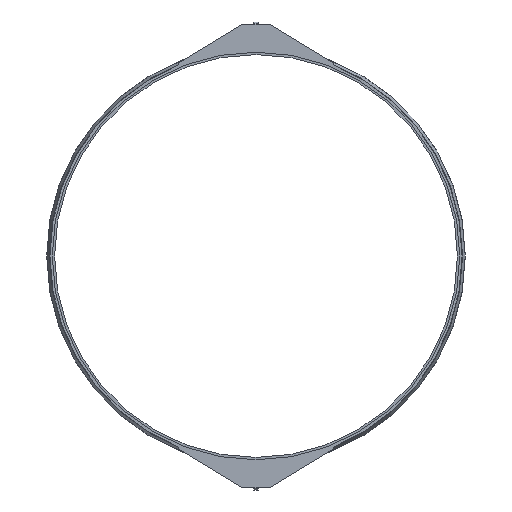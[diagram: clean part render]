
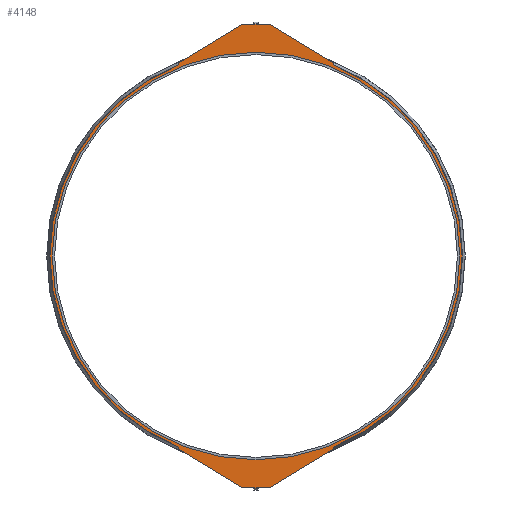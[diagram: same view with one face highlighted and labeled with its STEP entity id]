
A CAD part, left-side view. The second image highlights one B-rep face of the part: STEP entity #4148.
In plain terms, the highlighted planar face has unit normal (-1, 0, 0).
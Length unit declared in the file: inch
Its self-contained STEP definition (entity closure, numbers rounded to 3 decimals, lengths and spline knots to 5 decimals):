
#126=FACE_BOUND('',#718,.T.);
#268=PLANE('',#4523);
#479=FACE_OUTER_BOUND('',#717,.T.);
#717=EDGE_LOOP('',(#3664,#3665,#3666,#3667,#3668,#3669,#3670,#3671,#3672,
#3673,#3674,#3675,#3676,#3677,#3678,#3679,#3680,#3681,#3682,#3683));
#718=EDGE_LOOP('',(#3684,#3685));
#846=LINE('',#5992,#1235);
#849=LINE('',#6000,#1238);
#853=LINE('',#6009,#1242);
#856=LINE('',#6017,#1245);
#857=LINE('',#6020,#1246);
#1049=LINE('',#6769,#1438);
#1053=LINE('',#6778,#1442);
#1056=LINE('',#6786,#1445);
#1059=LINE('',#6793,#1448);
#1061=LINE('',#6797,#1450);
#1235=VECTOR('',#4846,0.3937);
#1238=VECTOR('',#4855,0.3937);
#1242=VECTOR('',#4865,0.3937);
#1245=VECTOR('',#4874,0.3937);
#1246=VECTOR('',#4877,0.3937);
#1438=VECTOR('',#5381,0.3937);
#1442=VECTOR('',#5391,0.3937);
#1445=VECTOR('',#5400,0.3937);
#1448=VECTOR('',#5409,0.3937);
#1450=VECTOR('',#5413,0.3937);
#1524=CIRCLE('',#4257,0.063);
#1525=CIRCLE('',#4260,0.125);
#1526=CIRCLE('',#4263,0.125);
#1527=CIRCLE('',#4266,0.063);
#1530=CIRCLE('',#4272,33.375);
#1583=CIRCLE('',#4423,0.063);
#1584=CIRCLE('',#4426,0.125);
#1585=CIRCLE('',#4429,0.125);
#1586=CIRCLE('',#4432,0.063);
#1596=CIRCLE('',#4463,33.375);
#1639=CIRCLE('',#4521,33.);
#1640=CIRCLE('',#4522,33.);
#1748=VERTEX_POINT('',#5984);
#1749=VERTEX_POINT('',#5986);
#1750=VERTEX_POINT('',#5990);
#1751=VERTEX_POINT('',#5994);
#1752=VERTEX_POINT('',#5998);
#1753=VERTEX_POINT('',#6003);
#1754=VERTEX_POINT('',#6007);
#1755=VERTEX_POINT('',#6011);
#1756=VERTEX_POINT('',#6015);
#1757=VERTEX_POINT('',#6019);
#1762=VERTEX_POINT('',#6031);
#1940=VERTEX_POINT('',#6762);
#1941=VERTEX_POINT('',#6764);
#1942=VERTEX_POINT('',#6768);
#1943=VERTEX_POINT('',#6772);
#1944=VERTEX_POINT('',#6777);
#1945=VERTEX_POINT('',#6781);
#1946=VERTEX_POINT('',#6785);
#1947=VERTEX_POINT('',#6789);
#1948=VERTEX_POINT('',#6795);
#2013=VERTEX_POINT('',#6993);
#2014=VERTEX_POINT('',#6995);
#2167=EDGE_CURVE('',#1748,#1749,#1524,.T.);
#2170=EDGE_CURVE('',#1750,#1748,#846,.T.);
#2172=EDGE_CURVE('',#1751,#1750,#1525,.T.);
#2174=EDGE_CURVE('',#1752,#1751,#849,.T.);
#2177=EDGE_CURVE('',#1753,#1752,#1526,.T.);
#2179=EDGE_CURVE('',#1754,#1753,#853,.T.);
#2181=EDGE_CURVE('',#1755,#1754,#1527,.T.);
#2183=EDGE_CURVE('',#1756,#1755,#856,.T.);
#2184=EDGE_CURVE('',#1749,#1757,#857,.T.);
#2191=EDGE_CURVE('',#1762,#1756,#1530,.T.);
#2454=EDGE_CURVE('',#1941,#1940,#1583,.T.);
#2456=EDGE_CURVE('',#1942,#1941,#1049,.T.);
#2458=EDGE_CURVE('',#1943,#1942,#1584,.T.);
#2461=EDGE_CURVE('',#1944,#1943,#1053,.T.);
#2463=EDGE_CURVE('',#1945,#1944,#1585,.T.);
#2465=EDGE_CURVE('',#1946,#1945,#1056,.T.);
#2467=EDGE_CURVE('',#1947,#1946,#1586,.T.);
#2469=EDGE_CURVE('',#1762,#1947,#1059,.T.);
#2471=EDGE_CURVE('',#1940,#1948,#1061,.T.);
#2520=EDGE_CURVE('',#1757,#1948,#1596,.T.);
#2570=EDGE_CURVE('',#2014,#2013,#1639,.T.);
#2571=EDGE_CURVE('',#2013,#2014,#1640,.T.);
#3664=ORIENTED_EDGE('',*,*,#2191,.F.);
#3665=ORIENTED_EDGE('',*,*,#2469,.T.);
#3666=ORIENTED_EDGE('',*,*,#2467,.T.);
#3667=ORIENTED_EDGE('',*,*,#2465,.T.);
#3668=ORIENTED_EDGE('',*,*,#2463,.T.);
#3669=ORIENTED_EDGE('',*,*,#2461,.T.);
#3670=ORIENTED_EDGE('',*,*,#2458,.T.);
#3671=ORIENTED_EDGE('',*,*,#2456,.T.);
#3672=ORIENTED_EDGE('',*,*,#2454,.T.);
#3673=ORIENTED_EDGE('',*,*,#2471,.T.);
#3674=ORIENTED_EDGE('',*,*,#2520,.F.);
#3675=ORIENTED_EDGE('',*,*,#2184,.F.);
#3676=ORIENTED_EDGE('',*,*,#2167,.F.);
#3677=ORIENTED_EDGE('',*,*,#2170,.F.);
#3678=ORIENTED_EDGE('',*,*,#2172,.F.);
#3679=ORIENTED_EDGE('',*,*,#2174,.F.);
#3680=ORIENTED_EDGE('',*,*,#2177,.F.);
#3681=ORIENTED_EDGE('',*,*,#2179,.F.);
#3682=ORIENTED_EDGE('',*,*,#2181,.F.);
#3683=ORIENTED_EDGE('',*,*,#2183,.F.);
#3684=ORIENTED_EDGE('',*,*,#2570,.T.);
#3685=ORIENTED_EDGE('',*,*,#2571,.T.);
#4148=ADVANCED_FACE('',(#479,#126),#268,.T.);
#4257=AXIS2_PLACEMENT_3D('',#5987,#4840,#4841);
#4260=AXIS2_PLACEMENT_3D('',#5996,#4850,#4851);
#4263=AXIS2_PLACEMENT_3D('',#6005,#4860,#4861);
#4266=AXIS2_PLACEMENT_3D('',#6013,#4869,#4870);
#4272=AXIS2_PLACEMENT_3D('',#6033,#4888,#4889);
#4423=AXIS2_PLACEMENT_3D('',#6765,#5376,#5377);
#4426=AXIS2_PLACEMENT_3D('',#6773,#5385,#5386);
#4429=AXIS2_PLACEMENT_3D('',#6782,#5395,#5396);
#4432=AXIS2_PLACEMENT_3D('',#6790,#5404,#5405);
#4463=AXIS2_PLACEMENT_3D('',#6894,#5509,#5510);
#4521=AXIS2_PLACEMENT_3D('',#6996,#5632,#5633);
#4522=AXIS2_PLACEMENT_3D('',#6997,#5634,#5635);
#4523=AXIS2_PLACEMENT_3D('',#6998,#5636,#5637);
#4840=DIRECTION('center_axis',(1.,0.,0.));
#4841=DIRECTION('ref_axis',(0.,-1.,0.));
#4846=DIRECTION('',(0.,0.855,0.519));
#4850=DIRECTION('center_axis',(1.,0.,0.));
#4851=DIRECTION('ref_axis',(0.,-0.519,0.855));
#4855=DIRECTION('',(0.,1.,0.));
#4860=DIRECTION('center_axis',(1.,0.,0.));
#4861=DIRECTION('ref_axis',(0.,0.,1.));
#4865=DIRECTION('',(0.,0.855,-0.519));
#4869=DIRECTION('center_axis',(1.,0.,0.));
#4870=DIRECTION('ref_axis',(0.,0.519,0.855));
#4874=DIRECTION('',(0.,0.,-1.));
#4877=DIRECTION('',(0.,0.,1.));
#4888=DIRECTION('center_axis',(1.,0.,0.));
#4889=DIRECTION('ref_axis',(0.,0.,-1.));
#5376=DIRECTION('center_axis',(-1.,0.,0.));
#5377=DIRECTION('ref_axis',(0.,-1.,0.));
#5381=DIRECTION('',(0.,0.855,-0.519));
#5385=DIRECTION('center_axis',(-1.,0.,0.));
#5386=DIRECTION('ref_axis',(0.,-0.519,-0.855));
#5391=DIRECTION('',(0.,1.,0.));
#5395=DIRECTION('center_axis',(-1.,0.,0.));
#5396=DIRECTION('ref_axis',(0.,0.,-1.));
#5400=DIRECTION('',(0.,0.855,0.519));
#5404=DIRECTION('center_axis',(-1.,0.,0.));
#5405=DIRECTION('ref_axis',(0.,0.519,-0.855));
#5409=DIRECTION('',(0.,0.,1.));
#5413=DIRECTION('',(0.,0.,-1.));
#5509=DIRECTION('center_axis',(1.,0.,0.));
#5510=DIRECTION('ref_axis',(0.,0.,-1.));
#5632=DIRECTION('center_axis',(1.,0.,0.));
#5633=DIRECTION('ref_axis',(0.,0.,-1.));
#5634=DIRECTION('center_axis',(1.,0.,0.));
#5635=DIRECTION('ref_axis',(0.,0.,-1.));
#5636=DIRECTION('center_axis',(-1.,0.,0.));
#5637=DIRECTION('ref_axis',(0.,0.,1.));
#5984=CARTESIAN_POINT('',(-6.25,12.4697,-31.33917));
#5986=CARTESIAN_POINT('',(-6.25,12.5,-31.28532));
#5987=CARTESIAN_POINT('Origin',(-6.25,12.437,-31.28532));
#5990=CARTESIAN_POINT('',(-6.25,2.2299,-37.55685));
#5992=CARTESIAN_POINT('',(-6.25,2.2299,-37.55685));
#5994=CARTESIAN_POINT('',(-6.25,2.16502,-37.575));
#5996=CARTESIAN_POINT('Origin',(-6.25,2.16502,-37.45));
#5998=CARTESIAN_POINT('',(-6.25,-2.16502,-37.575));
#6000=CARTESIAN_POINT('',(-6.25,0.,-37.575));
#6003=CARTESIAN_POINT('',(-6.25,-2.2299,-37.55685));
#6005=CARTESIAN_POINT('Origin',(-6.25,-2.16502,-37.45));
#6007=CARTESIAN_POINT('',(-6.25,-12.4697,-31.33917));
#6009=CARTESIAN_POINT('',(-6.25,-12.4697,-31.33917));
#6011=CARTESIAN_POINT('',(-6.25,-12.5,-31.28532));
#6013=CARTESIAN_POINT('Origin',(-6.25,-12.437,-31.28532));
#6015=CARTESIAN_POINT('',(-6.25,-12.5,-30.94577));
#6017=CARTESIAN_POINT('',(-6.25,-12.5,-30.94577));
#6019=CARTESIAN_POINT('',(-6.25,12.5,-30.94577));
#6020=CARTESIAN_POINT('',(-6.25,12.5,-31.28532));
#6031=CARTESIAN_POINT('',(-6.25,-12.5,30.94577));
#6033=CARTESIAN_POINT('Origin',(-6.25,0.,0.));
#6762=CARTESIAN_POINT('',(-6.25,12.5,31.28532));
#6764=CARTESIAN_POINT('',(-6.25,12.4697,31.33917));
#6765=CARTESIAN_POINT('Origin',(-6.25,12.437,31.28532));
#6768=CARTESIAN_POINT('',(-6.25,2.2299,37.55685));
#6769=CARTESIAN_POINT('',(-6.25,2.2299,37.55685));
#6772=CARTESIAN_POINT('',(-6.25,2.16502,37.575));
#6773=CARTESIAN_POINT('Origin',(-6.25,2.16502,37.45));
#6777=CARTESIAN_POINT('',(-6.25,-2.16502,37.575));
#6778=CARTESIAN_POINT('',(-6.25,0.,37.575));
#6781=CARTESIAN_POINT('',(-6.25,-2.2299,37.55685));
#6782=CARTESIAN_POINT('Origin',(-6.25,-2.16502,37.45));
#6785=CARTESIAN_POINT('',(-6.25,-12.4697,31.33917));
#6786=CARTESIAN_POINT('',(-6.25,-12.4697,31.33917));
#6789=CARTESIAN_POINT('',(-6.25,-12.5,31.28532));
#6790=CARTESIAN_POINT('Origin',(-6.25,-12.437,31.28532));
#6793=CARTESIAN_POINT('',(-6.25,-12.5,30.94577));
#6795=CARTESIAN_POINT('',(-6.25,12.5,30.94577));
#6797=CARTESIAN_POINT('',(-6.25,12.5,31.28532));
#6894=CARTESIAN_POINT('Origin',(-6.25,0.,0.));
#6993=CARTESIAN_POINT('',(-6.25,-33.,0.));
#6995=CARTESIAN_POINT('',(-6.25,33.,0.));
#6996=CARTESIAN_POINT('Origin',(-6.25,0.,0.));
#6997=CARTESIAN_POINT('Origin',(-6.25,0.,0.));
#6998=CARTESIAN_POINT('Origin',(-6.25,33.375,0.));
